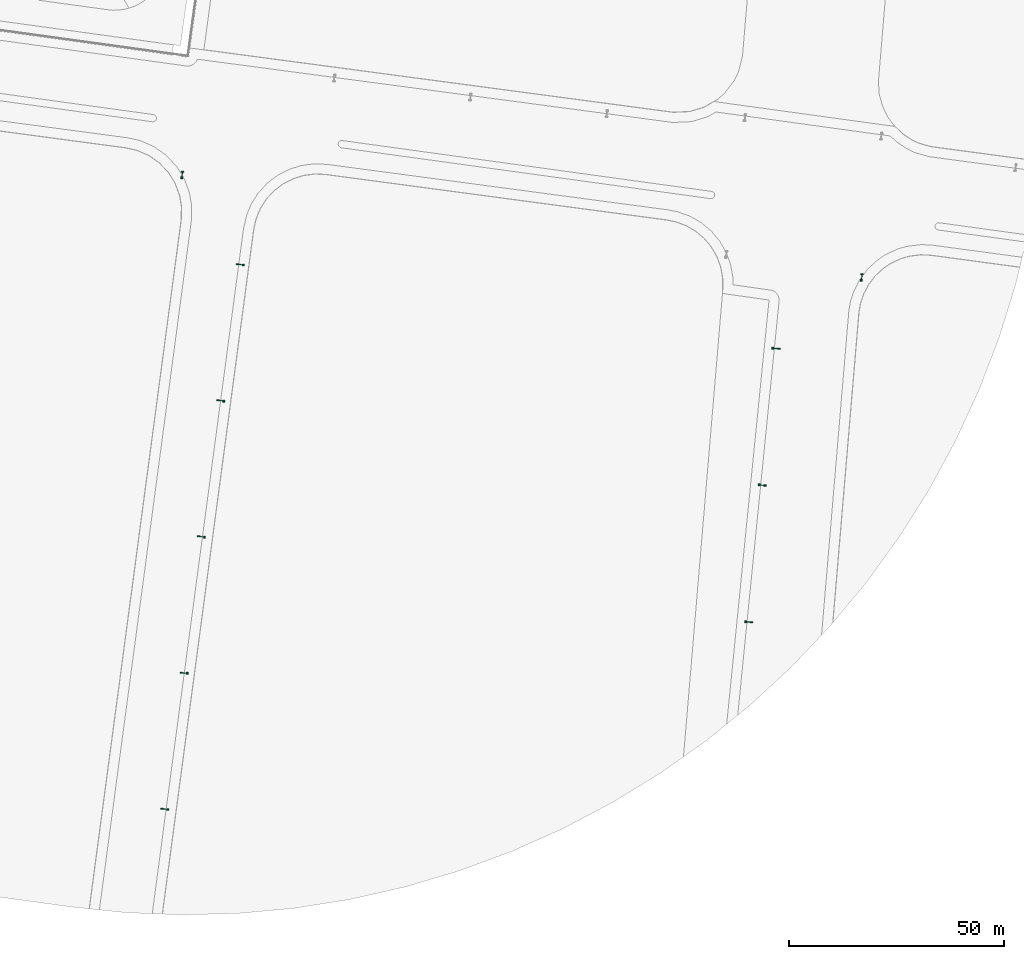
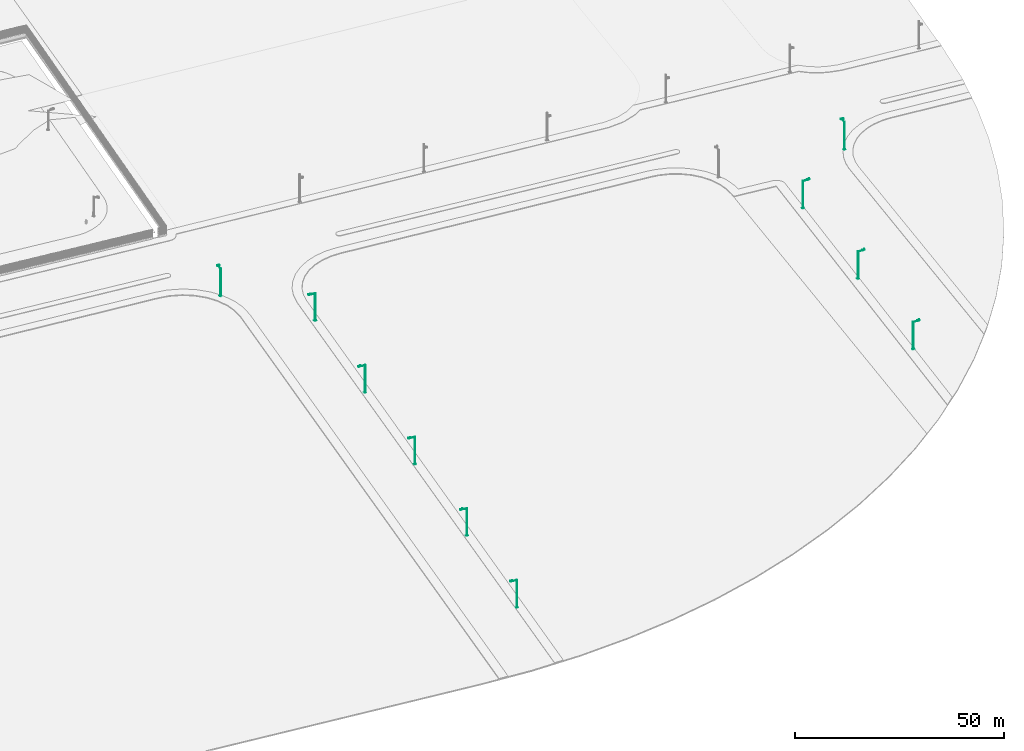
# Not in any storey, part 57 of 75: 10 light fixtures.
"""IFC4 model written with IfcOpenShell, lengths in metres."""

from ifc_helpers import new_model, si_unit, direction, origin, origin_with_axes, place, context, subcontext, project, spatial, triangles, element, save


model = new_model("IFC4")

# Units and contexts
model_context = context("Model", 3, precision=1e-05, world=origin_with_axes(), true_north=direction((0.0, 1.0)))
body_context = subcontext(model_context, "Body", "Model", "MODEL_VIEW")
ifc_project = project(units=[si_unit("AREAUNIT", "SQUARE_METRE"), si_unit("VOLUMEUNIT", "CUBIC_METRE"), si_unit("LENGTHUNIT", "METRE")], contexts=[model_context])

# Site
site_placement = place(None, origin_with_axes())
site = spatial("IfcSite", under=ifc_project, at=site_placement, Name="Parcela industrial Jinhong")

# Light fixtures
light_fixture_1_placement = place(None, origin())
element("IfcLightFixture", 1, at=light_fixture_1_placement, inside=site, Name="Luminaria del entorno · ilustrativa 15", ObjectType="Luminaria del entorno · ilustrativa 15", PredefinedType="USERDEFINED", context=body_context, shape_type="Tessellation", body=[
    triangles([(123.524342, -25.923981, 1.887315), (123.524342, -25.923981, 2.087315), (123.524342, -25.473981, 1.887315), (123.524342, -25.473981, 2.087315), (123.974342, -25.923981, 1.887315), (123.974342, -25.923981, 2.087315), (123.974342, -25.473981, 1.887315), (123.974342, -25.473981, 2.087315)], [[2, 4, 1], [5, 2, 1], [1, 4, 3], [3, 5, 1], [2, 8, 4], [6, 2, 5], [6, 8, 2], [4, 8, 3], [7, 5, 3], [3, 8, 7], [7, 6, 5], [8, 6, 7]], closed=True),
    triangles([(123.689342, -25.758981, 2.087315), (123.689342, -25.758981, 9.887315), (123.689342, -25.638981, 2.087315), (123.689342, -25.638981, 9.887315), (123.809342, -25.758981, 2.087315), (123.809342, -25.758981, 9.887315), (123.809342, -25.638981, 2.087315), (123.809342, -25.638981, 9.887315)], [[2, 4, 1], [5, 2, 1], [1, 4, 3], [3, 5, 1], [2, 8, 4], [6, 2, 5], [6, 8, 2], [4, 8, 3], [7, 5, 3], [3, 8, 7], [7, 6, 5], [8, 6, 7]], closed=True),
    triangles([(123.784481, -25.708504, 9.830611), (123.975516, -24.321599, 9.980611), (123.70568, -25.69685, 9.823219), (123.896715, -24.309945, 9.973219), (123.793004, -25.701112, 9.751411), (123.984039, -24.314207, 9.901411), (123.714203, -25.689458, 9.744019), (123.905238, -24.302553, 9.894019)], [[2, 4, 1], [5, 2, 1], [1, 4, 3], [3, 5, 1], [2, 8, 4], [6, 2, 5], [6, 8, 2], [4, 8, 3], [7, 5, 3], [3, 8, 7], [7, 6, 5], [8, 6, 7]], closed=True),
    triangles([(123.650377, -24.452076, 9.877315), (123.650377, -24.452076, 9.997315), (123.650377, -24.172076, 9.877315), (123.650377, -24.172076, 9.997315), (124.230377, -24.452076, 9.877315), (124.230377, -24.452076, 9.997315), (124.230377, -24.172076, 9.877315), (124.230377, -24.172076, 9.997315)], [[2, 4, 1], [5, 2, 1], [1, 4, 3], [3, 5, 1], [2, 8, 4], [6, 2, 5], [6, 8, 2], [4, 8, 3], [7, 5, 3], [3, 8, 7], [7, 6, 5], [8, 6, 7]], closed=True),
])
light_fixture_2_placement = place(None, origin())
element("IfcLightFixture", 2, at=light_fixture_2_placement, inside=site, Name="Luminaria del entorno · ilustrativa 21", ObjectType="Luminaria del entorno · ilustrativa 21", PredefinedType="USERDEFINED", context=body_context, shape_type="Tessellation", body=[
    triangles([(281.75487, -49.737844, 3.623154), (281.75487, -49.737844, 3.823154), (281.75487, -49.287844, 3.623154), (281.75487, -49.287844, 3.823154), (282.20487, -49.737844, 3.623154), (282.20487, -49.737844, 3.823154), (282.20487, -49.287844, 3.623154), (282.20487, -49.287844, 3.823154)], [[2, 4, 1], [5, 2, 1], [1, 4, 3], [3, 5, 1], [2, 8, 4], [6, 2, 5], [6, 8, 2], [4, 8, 3], [7, 5, 3], [3, 8, 7], [7, 6, 5], [8, 6, 7]], closed=True),
    triangles([(281.91987, -49.572844, 3.823154), (281.91987, -49.572844, 11.623154), (281.91987, -49.452844, 3.823154), (281.91987, -49.452844, 11.623154), (282.03987, -49.572844, 3.823154), (282.03987, -49.572844, 11.623154), (282.03987, -49.452844, 3.823154), (282.03987, -49.452844, 11.623154)], [[2, 4, 1], [5, 2, 1], [1, 4, 3], [3, 5, 1], [2, 8, 4], [6, 2, 5], [6, 8, 2], [4, 8, 3], [7, 5, 3], [3, 8, 7], [7, 6, 5], [8, 6, 7]], closed=True),
    triangles([(282.015009, -49.522366, 11.56645), (282.206044, -48.135461, 11.71645), (281.936208, -49.510713, 11.559058), (282.127243, -48.123808, 11.709058), (282.023532, -49.514975, 11.48725), (282.214567, -48.128069, 11.63725), (281.944731, -49.503321, 11.479858), (282.135766, -48.116416, 11.629858)], [[2, 4, 1], [5, 2, 1], [1, 4, 3], [3, 5, 1], [2, 8, 4], [6, 2, 5], [6, 8, 2], [4, 8, 3], [7, 5, 3], [3, 8, 7], [7, 6, 5], [8, 6, 7]], closed=True),
    triangles([(281.880905, -48.265939, 11.613154), (281.880905, -48.265939, 11.733154), (281.880905, -47.985939, 11.613154), (281.880905, -47.985939, 11.733154), (282.460905, -48.265939, 11.613154), (282.460905, -48.265939, 11.733154), (282.460905, -47.985939, 11.613154), (282.460905, -47.985939, 11.733154)], [[2, 4, 1], [5, 2, 1], [1, 4, 3], [3, 5, 1], [2, 8, 4], [6, 2, 5], [6, 8, 2], [4, 8, 3], [7, 5, 3], [3, 8, 7], [7, 6, 5], [8, 6, 7]], closed=True),
])
light_fixture_3_placement = place(None, origin())
element("IfcLightFixture", 3, at=light_fixture_3_placement, inside=site, Name="Luminaria del entorno · ilustrativa 29", ObjectType="Luminaria del entorno · ilustrativa 29", PredefinedType="USERDEFINED", context=body_context, shape_type="Tessellation", body=[
    triangles([(137.866169, -46.226429, 1.996236), (137.866169, -46.226429, 2.196236), (137.866169, -45.776429, 1.996236), (137.866169, -45.776429, 2.196236), (138.316169, -46.226429, 1.996236), (138.316169, -46.226429, 2.196236), (138.316169, -45.776429, 1.996236), (138.316169, -45.776429, 2.196236)], [[2, 4, 1], [5, 2, 1], [1, 4, 3], [3, 5, 1], [2, 8, 4], [6, 2, 5], [6, 8, 2], [4, 8, 3], [7, 5, 3], [3, 8, 7], [7, 6, 5], [8, 6, 7]], closed=True),
    triangles([(138.031169, -46.061429, 2.196236), (138.031169, -46.061429, 9.996236), (138.031169, -45.941429, 2.196236), (138.031169, -45.941429, 9.996236), (138.151169, -46.061429, 2.196236), (138.151169, -46.061429, 9.996236), (138.151169, -45.941429, 2.196236), (138.151169, -45.941429, 9.996236)], [[2, 4, 1], [5, 2, 1], [1, 4, 3], [3, 5, 1], [2, 8, 4], [6, 2, 5], [6, 8, 2], [4, 8, 3], [7, 5, 3], [3, 8, 7], [7, 6, 5], [8, 6, 7]], closed=True),
    triangles([(138.081283, -46.040728, 9.856767), (136.695354, -45.842738, 10.006767), (138.092532, -45.961525, 9.856163), (136.706603, -45.763535, 10.006163), (138.089805, -46.041332, 9.93631), (136.703876, -45.843342, 10.08631), (138.101055, -45.962129, 9.935706), (136.715126, -45.764139, 10.085706)], [[2, 4, 1], [5, 2, 1], [1, 4, 3], [3, 5, 1], [2, 8, 4], [6, 2, 5], [6, 8, 2], [4, 8, 3], [7, 5, 3], [3, 8, 7], [7, 6, 5], [8, 6, 7]], closed=True),
    triangles([(136.41524, -45.943439, 9.986236), (136.41524, -45.943439, 10.106236), (136.41524, -45.663439, 9.986236), (136.41524, -45.663439, 10.106236), (136.99524, -45.943439, 9.986236), (136.99524, -45.943439, 10.106236), (136.99524, -45.663439, 9.986236), (136.99524, -45.663439, 10.106236)], [[2, 4, 1], [5, 2, 1], [1, 4, 3], [3, 5, 1], [2, 8, 4], [6, 2, 5], [6, 8, 2], [4, 8, 3], [7, 5, 3], [3, 8, 7], [7, 6, 5], [8, 6, 7]], closed=True),
])
light_fixture_4_placement = place(None, origin())
element("IfcLightFixture", 4, at=light_fixture_4_placement, inside=site, Name="Luminaria del entorno · ilustrativa 30", ObjectType="Luminaria del entorno · ilustrativa 30", PredefinedType="USERDEFINED", context=body_context, shape_type="Tessellation", body=[
    triangles([(133.340685, -77.904812, 1.860247), (133.340685, -77.904812, 2.060247), (133.340685, -77.454812, 1.860247), (133.340685, -77.454812, 2.060247), (133.790685, -77.904812, 1.860247), (133.790685, -77.904812, 2.060247), (133.790685, -77.454812, 1.860247), (133.790685, -77.454812, 2.060247)], [[2, 4, 1], [5, 2, 1], [1, 4, 3], [3, 5, 1], [2, 8, 4], [6, 2, 5], [6, 8, 2], [4, 8, 3], [7, 5, 3], [3, 8, 7], [7, 6, 5], [8, 6, 7]], closed=True),
    triangles([(133.505685, -77.739812, 2.060247), (133.505685, -77.739812, 9.860247), (133.505685, -77.619812, 2.060247), (133.505685, -77.619812, 9.860247), (133.625685, -77.739812, 2.060247), (133.625685, -77.739812, 9.860247), (133.625685, -77.619812, 2.060247), (133.625685, -77.619812, 9.860247)], [[2, 4, 1], [5, 2, 1], [1, 4, 3], [3, 5, 1], [2, 8, 4], [6, 2, 5], [6, 8, 2], [4, 8, 3], [7, 5, 3], [3, 8, 7], [7, 6, 5], [8, 6, 7]], closed=True),
    triangles([(133.555799, -77.719112, 9.720778), (132.16987, -77.521122, 9.870778), (133.567049, -77.639909, 9.720174), (132.181119, -77.441919, 9.870174), (133.564322, -77.719716, 9.80032), (132.178393, -77.521726, 9.95032), (133.575571, -77.640513, 9.799716), (132.189642, -77.442523, 9.949716)], [[2, 4, 1], [5, 2, 1], [1, 4, 3], [3, 5, 1], [2, 8, 4], [6, 2, 5], [6, 8, 2], [4, 8, 3], [7, 5, 3], [3, 8, 7], [7, 6, 5], [8, 6, 7]], closed=True),
    triangles([(131.889756, -77.621822, 9.850247), (131.889756, -77.621822, 9.970247), (131.889756, -77.341822, 9.850247), (131.889756, -77.341822, 9.970247), (132.469756, -77.621822, 9.850247), (132.469756, -77.621822, 9.970247), (132.469756, -77.341822, 9.850247), (132.469756, -77.341822, 9.970247)], [[2, 4, 1], [5, 2, 1], [1, 4, 3], [3, 5, 1], [2, 8, 4], [6, 2, 5], [6, 8, 2], [4, 8, 3], [7, 5, 3], [3, 8, 7], [7, 6, 5], [8, 6, 7]], closed=True),
])
light_fixture_5_placement = place(None, origin())
element("IfcLightFixture", 5, at=light_fixture_5_placement, inside=site, Name="Luminaria del entorno · ilustrativa 31", ObjectType="Luminaria del entorno · ilustrativa 31", PredefinedType="USERDEFINED", context=body_context, shape_type="Tessellation", body=[
    triangles([(128.815202, -109.583196, 1.724257), (128.815202, -109.583196, 1.924257), (128.815202, -109.133196, 1.724257), (128.815202, -109.133196, 1.924257), (129.265202, -109.583196, 1.724257), (129.265202, -109.583196, 1.924257), (129.265202, -109.133196, 1.724257), (129.265202, -109.133196, 1.924257)], [[2, 4, 1], [5, 2, 1], [1, 4, 3], [3, 5, 1], [2, 8, 4], [6, 2, 5], [6, 8, 2], [4, 8, 3], [7, 5, 3], [3, 8, 7], [7, 6, 5], [8, 6, 7]], closed=True),
    triangles([(128.980202, -109.418196, 1.924257), (128.980202, -109.418196, 9.724257), (128.980202, -109.298196, 1.924257), (128.980202, -109.298196, 9.724257), (129.100202, -109.418196, 1.924257), (129.100202, -109.418196, 9.724257), (129.100202, -109.298196, 1.924257), (129.100202, -109.298196, 9.724257)], [[2, 4, 1], [5, 2, 1], [1, 4, 3], [3, 5, 1], [2, 8, 4], [6, 2, 5], [6, 8, 2], [4, 8, 3], [7, 5, 3], [3, 8, 7], [7, 6, 5], [8, 6, 7]], closed=True),
    triangles([(129.030316, -109.397496, 9.584788), (127.644387, -109.199506, 9.734788), (129.041565, -109.318293, 9.584184), (127.655636, -109.120303, 9.734184), (129.038839, -109.3981, 9.664331), (127.652909, -109.20011, 9.814331), (129.050088, -109.318897, 9.663727), (127.664159, -109.120907, 9.813727)], [[2, 4, 1], [5, 2, 1], [1, 4, 3], [3, 5, 1], [2, 8, 4], [6, 2, 5], [6, 8, 2], [4, 8, 3], [7, 5, 3], [3, 8, 7], [7, 6, 5], [8, 6, 7]], closed=True),
    triangles([(127.364273, -109.300206, 9.714257), (127.364273, -109.300206, 9.834257), (127.364273, -109.020206, 9.714257), (127.364273, -109.020206, 9.834257), (127.944273, -109.300206, 9.714257), (127.944273, -109.300206, 9.834257), (127.944273, -109.020206, 9.714257), (127.944273, -109.020206, 9.834257)], [[2, 4, 1], [5, 2, 1], [1, 4, 3], [3, 5, 1], [2, 8, 4], [6, 2, 5], [6, 8, 2], [4, 8, 3], [7, 5, 3], [3, 8, 7], [7, 6, 5], [8, 6, 7]], closed=True),
])
light_fixture_6_placement = place(None, origin())
element("IfcLightFixture", 6, at=light_fixture_6_placement, inside=site, Name="Luminaria del entorno · ilustrativa 32", ObjectType="Luminaria del entorno · ilustrativa 32", PredefinedType="USERDEFINED", context=body_context, shape_type="Tessellation", body=[
    triangles([(124.784693, -141.332291, 1.593708), (124.784693, -141.332291, 1.793708), (124.784693, -140.882291, 1.593708), (124.784693, -140.882291, 1.793708), (125.234693, -141.332291, 1.593708), (125.234693, -141.332291, 1.793708), (125.234693, -140.882291, 1.593708), (125.234693, -140.882291, 1.793708)], [[2, 4, 1], [5, 2, 1], [1, 4, 3], [3, 5, 1], [2, 8, 4], [6, 2, 5], [6, 8, 2], [4, 8, 3], [7, 5, 3], [3, 8, 7], [7, 6, 5], [8, 6, 7]], closed=True),
    triangles([(124.949693, -141.167291, 1.793708), (124.949693, -141.167291, 9.593708), (124.949693, -141.047291, 1.793708), (124.949693, -141.047291, 9.593708), (125.069693, -141.167291, 1.793708), (125.069693, -141.167291, 9.593708), (125.069693, -141.047291, 1.793708), (125.069693, -141.047291, 9.593708)], [[2, 4, 1], [5, 2, 1], [1, 4, 3], [3, 5, 1], [2, 8, 4], [6, 2, 5], [6, 8, 2], [4, 8, 3], [7, 5, 3], [3, 8, 7], [7, 6, 5], [8, 6, 7]], closed=True),
    triangles([(124.999807, -141.14659, 9.454239), (123.613878, -140.9486, 9.604239), (125.011057, -141.067387, 9.453635), (123.625127, -140.869397, 9.603635), (125.00833, -141.147194, 9.533781), (123.622401, -140.949204, 9.683781), (125.019579, -141.067991, 9.533177), (123.63365, -140.870001, 9.683177)], [[2, 4, 1], [5, 2, 1], [1, 4, 3], [3, 5, 1], [2, 8, 4], [6, 2, 5], [6, 8, 2], [4, 8, 3], [7, 5, 3], [3, 8, 7], [7, 6, 5], [8, 6, 7]], closed=True),
    triangles([(123.333764, -141.049301, 9.583708), (123.333764, -141.049301, 9.703708), (123.333764, -140.769301, 9.583708), (123.333764, -140.769301, 9.703708), (123.913764, -141.049301, 9.583708), (123.913764, -141.049301, 9.703708), (123.913764, -140.769301, 9.583708), (123.913764, -140.769301, 9.703708)], [[2, 4, 1], [5, 2, 1], [1, 4, 3], [3, 5, 1], [2, 8, 4], [6, 2, 5], [6, 8, 2], [4, 8, 3], [7, 5, 3], [3, 8, 7], [7, 6, 5], [8, 6, 7]], closed=True),
])
light_fixture_7_placement = place(None, origin())
element("IfcLightFixture", 7, at=light_fixture_7_placement, inside=site, Name="Luminaria del entorno · ilustrativa 33", ObjectType="Luminaria del entorno · ilustrativa 33", PredefinedType="USERDEFINED", context=body_context, shape_type="Tessellation", body=[
    triangles([(120.25921, -173.010674, 1.457719), (120.25921, -173.010674, 1.657719), (120.25921, -172.560674, 1.457719), (120.25921, -172.560674, 1.657719), (120.70921, -173.010674, 1.457719), (120.70921, -173.010674, 1.657719), (120.70921, -172.560674, 1.457719), (120.70921, -172.560674, 1.657719)], [[2, 4, 1], [5, 2, 1], [1, 4, 3], [3, 5, 1], [2, 8, 4], [6, 2, 5], [6, 8, 2], [4, 8, 3], [7, 5, 3], [3, 8, 7], [7, 6, 5], [8, 6, 7]], closed=True),
    triangles([(120.42421, -172.845674, 1.657719), (120.42421, -172.845674, 9.457719), (120.42421, -172.725674, 1.657719), (120.42421, -172.725674, 9.457719), (120.54421, -172.845674, 1.657719), (120.54421, -172.845674, 9.457719), (120.54421, -172.725674, 1.657719), (120.54421, -172.725674, 9.457719)], [[2, 4, 1], [5, 2, 1], [1, 4, 3], [3, 5, 1], [2, 8, 4], [6, 2, 5], [6, 8, 2], [4, 8, 3], [7, 5, 3], [3, 8, 7], [7, 6, 5], [8, 6, 7]], closed=True),
    triangles([(120.474324, -172.824974, 9.318249), (119.088395, -172.626984, 9.468249), (120.485573, -172.745771, 9.317645), (119.099644, -172.547781, 9.467645), (120.482847, -172.825578, 9.397792), (119.096917, -172.627588, 9.547792), (120.494096, -172.746375, 9.397188), (119.108167, -172.548385, 9.547188)], [[2, 4, 1], [5, 2, 1], [1, 4, 3], [3, 5, 1], [2, 8, 4], [6, 2, 5], [6, 8, 2], [4, 8, 3], [7, 5, 3], [3, 8, 7], [7, 6, 5], [8, 6, 7]], closed=True),
    triangles([(118.808281, -172.727685, 9.447719), (118.808281, -172.727685, 9.567719), (118.808281, -172.447685, 9.447719), (118.808281, -172.447685, 9.567719), (119.388281, -172.727685, 9.447719), (119.388281, -172.727685, 9.567719), (119.388281, -172.447685, 9.447719), (119.388281, -172.447685, 9.567719)], [[2, 4, 1], [5, 2, 1], [1, 4, 3], [3, 5, 1], [2, 8, 4], [6, 2, 5], [6, 8, 2], [4, 8, 3], [7, 5, 3], [3, 8, 7], [7, 6, 5], [8, 6, 7]], closed=True),
])
light_fixture_8_placement = place(None, origin())
element("IfcLightFixture", 8, at=light_fixture_8_placement, inside=site, Name="Luminaria del entorno · ilustrativa 34", ObjectType="Luminaria del entorno · ilustrativa 34", PredefinedType="USERDEFINED", context=body_context, shape_type="Tessellation", body=[
    triangles([(261.162842, -65.598448, 3.346663), (261.162842, -65.598448, 3.546663), (261.162842, -65.148448, 3.346663), (261.162842, -65.148448, 3.546663), (261.612842, -65.598448, 3.346663), (261.612842, -65.598448, 3.546663), (261.612842, -65.148448, 3.346663), (261.612842, -65.148448, 3.546663)], [[2, 4, 1], [5, 2, 1], [1, 4, 3], [3, 5, 1], [2, 8, 4], [6, 2, 5], [6, 8, 2], [4, 8, 3], [7, 5, 3], [3, 8, 7], [7, 6, 5], [8, 6, 7]], closed=True),
    triangles([(261.327842, -65.433448, 3.546663), (261.327842, -65.433448, 11.346663), (261.327842, -65.313448, 3.546663), (261.327842, -65.313448, 11.346663), (261.447842, -65.433448, 3.546663), (261.447842, -65.433448, 11.346663), (261.447842, -65.313448, 3.546663), (261.447842, -65.313448, 11.346663)], [[2, 4, 1], [5, 2, 1], [1, 4, 3], [3, 5, 1], [2, 8, 4], [6, 2, 5], [6, 8, 2], [4, 8, 3], [7, 5, 3], [3, 8, 7], [7, 6, 5], [8, 6, 7]], closed=True),
    triangles([(261.379623, -65.41304, 11.286223), (262.772675, -65.552345, 11.436223), (261.387538, -65.333433, 11.286647), (262.78059, -65.472738, 11.436647), (261.388146, -65.413463, 11.20668), (262.781198, -65.552769, 11.35668), (261.396061, -65.333857, 11.207103), (262.789113, -65.473162, 11.357103)], [[2, 4, 1], [5, 2, 1], [1, 4, 3], [3, 5, 1], [2, 8, 4], [6, 2, 5], [6, 8, 2], [4, 8, 3], [7, 5, 3], [3, 8, 7], [7, 6, 5], [8, 6, 7]], closed=True),
    triangles([(262.490894, -65.652754, 11.336663), (262.490894, -65.652754, 11.456663), (262.490894, -65.372754, 11.336663), (262.490894, -65.372754, 11.456663), (263.070894, -65.652754, 11.336663), (263.070894, -65.652754, 11.456663), (263.070894, -65.372754, 11.336663), (263.070894, -65.372754, 11.456663)], [[2, 4, 1], [5, 2, 1], [1, 4, 3], [3, 5, 1], [2, 8, 4], [6, 2, 5], [6, 8, 2], [4, 8, 3], [7, 5, 3], [3, 8, 7], [7, 6, 5], [8, 6, 7]], closed=True),
])
light_fixture_9_placement = place(None, origin())
element("IfcLightFixture", 9, at=light_fixture_9_placement, inside=site, Name="Luminaria del entorno · ilustrativa 35", ObjectType="Luminaria del entorno · ilustrativa 35", PredefinedType="USERDEFINED", context=body_context, shape_type="Tessellation", body=[
    triangles([(257.978723, -97.439638, 3.225493), (257.978723, -97.439638, 3.425493), (257.978723, -96.989638, 3.225493), (257.978723, -96.989638, 3.425493), (258.428723, -97.439638, 3.225493), (258.428723, -97.439638, 3.425493), (258.428723, -96.989638, 3.225493), (258.428723, -96.989638, 3.425493)], [[2, 4, 1], [5, 2, 1], [1, 4, 3], [3, 5, 1], [2, 8, 4], [6, 2, 5], [6, 8, 2], [4, 8, 3], [7, 5, 3], [3, 8, 7], [7, 6, 5], [8, 6, 7]], closed=True),
    triangles([(258.143723, -97.274638, 3.425493), (258.143723, -97.274638, 11.225493), (258.143723, -97.154638, 3.425493), (258.143723, -97.154638, 11.225493), (258.263723, -97.274638, 3.425493), (258.263723, -97.274638, 11.225493), (258.263723, -97.154638, 3.425493), (258.263723, -97.154638, 11.225493)], [[2, 4, 1], [5, 2, 1], [1, 4, 3], [3, 5, 1], [2, 8, 4], [6, 2, 5], [6, 8, 2], [4, 8, 3], [7, 5, 3], [3, 8, 7], [7, 6, 5], [8, 6, 7]], closed=True),
    triangles([(258.195504, -97.25423, 11.165053), (259.588556, -97.393535, 11.315053), (258.203419, -97.174623, 11.165477), (259.596471, -97.313929, 11.315477), (258.204027, -97.254654, 11.08551), (259.597079, -97.393959, 11.23551), (258.211942, -97.175047, 11.085933), (259.604994, -97.314352, 11.235933)], [[2, 4, 1], [5, 2, 1], [1, 4, 3], [3, 5, 1], [2, 8, 4], [6, 2, 5], [6, 8, 2], [4, 8, 3], [7, 5, 3], [3, 8, 7], [7, 6, 5], [8, 6, 7]], closed=True),
    triangles([(259.306775, -97.493944, 11.215493), (259.306775, -97.493944, 11.335493), (259.306775, -97.213944, 11.215493), (259.306775, -97.213944, 11.335493), (259.886775, -97.493944, 11.215493), (259.886775, -97.493944, 11.335493), (259.886775, -97.213944, 11.215493), (259.886775, -97.213944, 11.335493)], [[2, 4, 1], [5, 2, 1], [1, 4, 3], [3, 5, 1], [2, 8, 4], [6, 2, 5], [6, 8, 2], [4, 8, 3], [7, 5, 3], [3, 8, 7], [7, 6, 5], [8, 6, 7]], closed=True),
])
light_fixture_10_placement = place(None, origin())
element("IfcLightFixture", 10, at=light_fixture_10_placement, inside=site, Name="Luminaria del entorno · ilustrativa 36", ObjectType="Luminaria del entorno · ilustrativa 36", PredefinedType="USERDEFINED", context=body_context, shape_type="Tessellation", body=[
    triangles([(254.794604, -129.280829, 3.104323), (254.794604, -129.280829, 3.304323), (254.794604, -128.830829, 3.104323), (254.794604, -128.830829, 3.304323), (255.244604, -129.280829, 3.104323), (255.244604, -129.280829, 3.304323), (255.244604, -128.830829, 3.104323), (255.244604, -128.830829, 3.304323)], [[2, 4, 1], [5, 2, 1], [1, 4, 3], [3, 5, 1], [2, 8, 4], [6, 2, 5], [6, 8, 2], [4, 8, 3], [7, 5, 3], [3, 8, 7], [7, 6, 5], [8, 6, 7]], closed=True),
    triangles([(254.959604, -129.115829, 3.304323), (254.959604, -129.115829, 11.104323), (254.959604, -128.995829, 3.304323), (254.959604, -128.995829, 11.104323), (255.079604, -129.115829, 3.304323), (255.079604, -129.115829, 11.104323), (255.079604, -128.995829, 3.304323), (255.079604, -128.995829, 11.104323)], [[2, 4, 1], [5, 2, 1], [1, 4, 3], [3, 5, 1], [2, 8, 4], [6, 2, 5], [6, 8, 2], [4, 8, 3], [7, 5, 3], [3, 8, 7], [7, 6, 5], [8, 6, 7]], closed=True),
    triangles([(255.011385, -129.09542, 11.043883), (256.404437, -129.234725, 11.193883), (255.0193, -129.015813, 11.044307), (256.412352, -129.155119, 11.194307), (255.019908, -129.095844, 10.96434), (256.41296, -129.235149, 11.11434), (255.027823, -129.016237, 10.964763), (256.420875, -129.155542, 11.114763)], [[2, 4, 1], [5, 2, 1], [1, 4, 3], [3, 5, 1], [2, 8, 4], [6, 2, 5], [6, 8, 2], [4, 8, 3], [7, 5, 3], [3, 8, 7], [7, 6, 5], [8, 6, 7]], closed=True),
    triangles([(256.122656, -129.335134, 11.094323), (256.122656, -129.335134, 11.214323), (256.122656, -129.055134, 11.094323), (256.122656, -129.055134, 11.214323), (256.702656, -129.335134, 11.094323), (256.702656, -129.335134, 11.214323), (256.702656, -129.055134, 11.094323), (256.702656, -129.055134, 11.214323)], [[2, 4, 1], [5, 2, 1], [1, 4, 3], [3, 5, 1], [2, 8, 4], [6, 2, 5], [6, 8, 2], [4, 8, 3], [7, 5, 3], [3, 8, 7], [7, 6, 5], [8, 6, 7]], closed=True),
])

save(model, "model.ifc")
